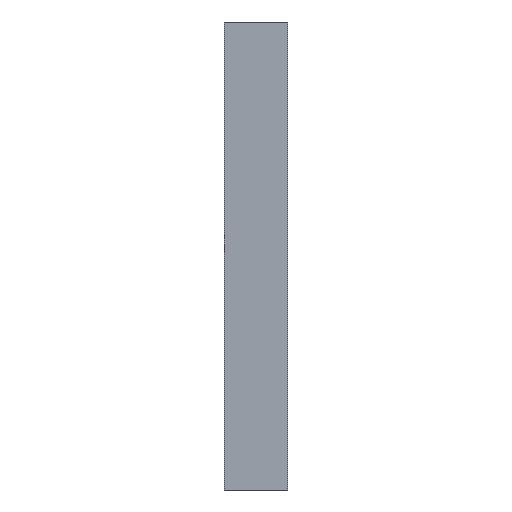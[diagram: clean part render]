
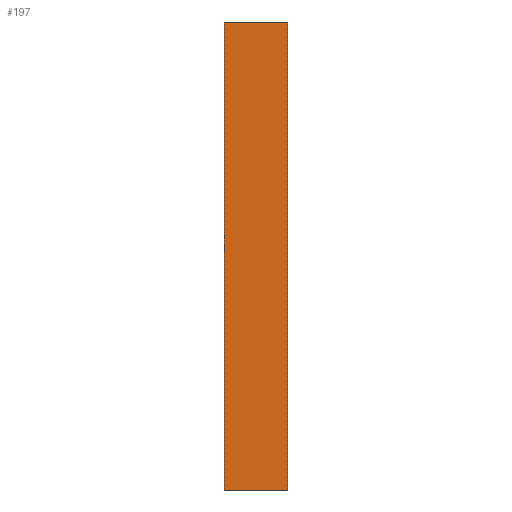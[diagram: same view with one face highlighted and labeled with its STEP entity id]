
A CAD part, left-side view. The second image highlights one B-rep face of the part: STEP entity #197.
In plain terms, the highlighted planar face has unit normal (-1, 0, 0).
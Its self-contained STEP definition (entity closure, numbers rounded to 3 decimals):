
#58 = EDGE_CURVE ( 'NONE', #251, #263, #1237, .T. ) ;
#60 = EDGE_CURVE ( 'NONE', #252, #282, #1233, .T. ) ;
#72 = EDGE_CURVE ( 'NONE', #263, #282, #1211, .T. ) ;
#73 = EDGE_CURVE ( 'NONE', #251, #252, #1240, .T. ) ;
#138 = AXIS2_PLACEMENT_3D ( 'NONE', #601, #607, #608 ) ;
#197 = ADVANCED_FACE ( 'NONE', ( #1340 ), #598, .F. ) ;
#251 = VERTEX_POINT ( 'NONE', #744 ) ;
#252 = VERTEX_POINT ( 'NONE', #745 ) ;
#263 = VERTEX_POINT ( 'NONE', #756 ) ;
#282 = VERTEX_POINT ( 'NONE', #775 ) ;
#406 = CARTESIAN_POINT ( 'NONE',  ( -251., 65., 239.5 ) ) ;
#407 = DIRECTION ( 'NONE',  ( 0., 0., 1. ) ) ;
#410 = CARTESIAN_POINT ( 'NONE',  ( -251., 0., 239.5 ) ) ;
#411 = DIRECTION ( 'NONE',  ( 0., 0., 1. ) ) ;
#434 = CARTESIAN_POINT ( 'NONE',  ( -251., 65., 239.5 ) ) ;
#435 = DIRECTION ( 'NONE',  ( 0., -1., 0. ) ) ;
#436 = CARTESIAN_POINT ( 'NONE',  ( -251., 65., -239.5 ) ) ;
#437 = DIRECTION ( 'NONE',  ( 0., -1., 0. ) ) ;
#598 = PLANE ( 'NONE',  #138 ) ;
#601 = CARTESIAN_POINT ( 'NONE',  ( -251., 65., 239.5 ) ) ;
#607 = DIRECTION ( 'NONE',  ( 1., 0., 0. ) ) ;
#608 = DIRECTION ( 'NONE',  ( 0., 0., -1. ) ) ;
#744 = CARTESIAN_POINT ( 'NONE',  ( -251., 65., -239.5 ) ) ;
#745 = CARTESIAN_POINT ( 'NONE',  ( -251., 0., -239.5 ) ) ;
#756 = CARTESIAN_POINT ( 'NONE',  ( -251., 65., 239.5 ) ) ;
#775 = CARTESIAN_POINT ( 'NONE',  ( -251., 0., 239.5 ) ) ;
#896 = EDGE_LOOP ( 'NONE', ( #1169, #1045, #1027, #1026 ) ) ;
#1026 = ORIENTED_EDGE ( 'NONE', *, *, #73, .T. ) ;
#1027 = ORIENTED_EDGE ( 'NONE', *, *, #58, .F. ) ;
#1045 = ORIENTED_EDGE ( 'NONE', *, *, #72, .F. ) ;
#1169 = ORIENTED_EDGE ( 'NONE', *, *, #60, .T. ) ;
#1211 = LINE ( 'NONE', #434, #1213 ) ;
#1213 = VECTOR ( 'NONE', #435, 1000. ) ;
#1232 = VECTOR ( 'NONE', #411, 1000. ) ;
#1233 = LINE ( 'NONE', #410, #1232 ) ;
#1236 = VECTOR ( 'NONE', #407, 1000. ) ;
#1237 = LINE ( 'NONE', #406, #1236 ) ;
#1239 = VECTOR ( 'NONE', #437, 1000. ) ;
#1240 = LINE ( 'NONE', #436, #1239 ) ;
#1340 = FACE_OUTER_BOUND ( 'NONE', #896, .T. ) ;
